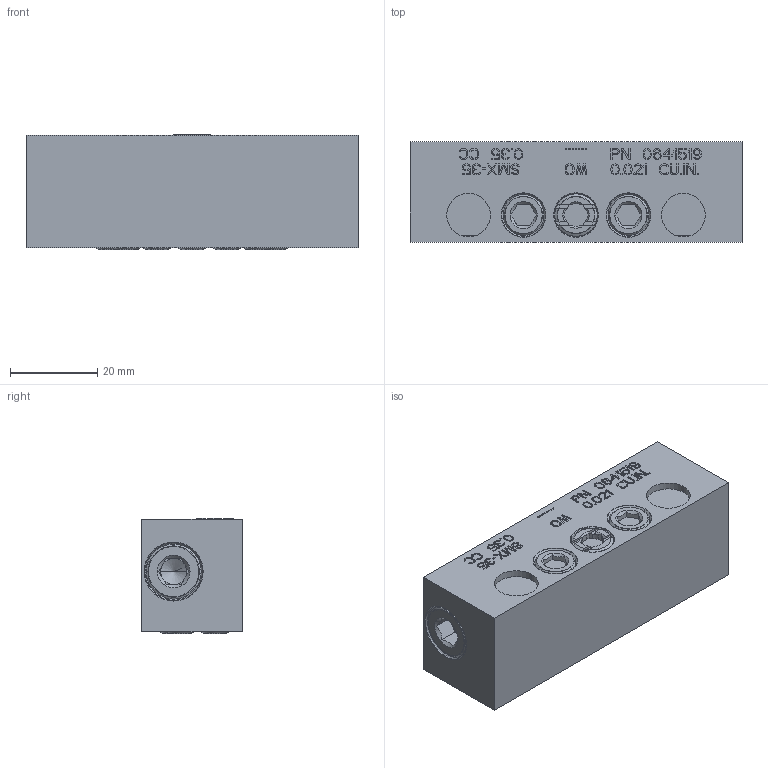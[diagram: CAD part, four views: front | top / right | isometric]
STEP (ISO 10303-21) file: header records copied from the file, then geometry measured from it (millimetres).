
FILE_DESCRIPTION((''),'2;1');
FILE_NAME('0641519_SMX_35','2023-07-21T09:47:44',('pietro.masciave'),(''),'CREO PARAMETRIC BY PTC INC, 2022281','CREO PARAMETRIC BY PTC INC, 2022281','');
FILE_SCHEMA(('CONFIG_CONTROL_DESIGN'));
Length unit declared in the file: millimetre
Products named in the file (1): 0641519_SMX_35
Bounding box: 76 x 23 x 26.33 mm (x, y, z)
Volume: 44007.3 mm3; surface area: 12654.3 mm2
Topology: 1 solids, 14 shells, 1314 faces, 3638 edges, 2417 vertices
Faces by surface type: plane 1138, cylinder 110, cone 44, torus 22
Entity records: 42452 total; most frequent: CARTESIAN_POINT 8607, ORIENTED_EDGE 7228, DIRECTION 6549, EDGE_CURVE 3634, VECTOR 3199, LINE 3199, VERTEX_POINT 2417, AXIS2_PLACEMENT_3D 1675
